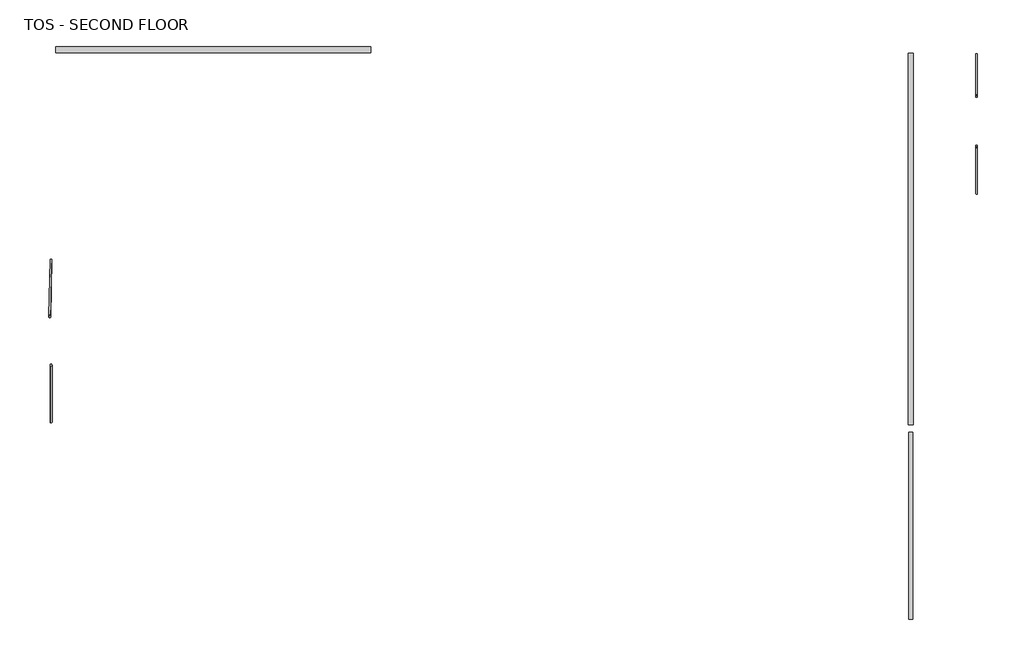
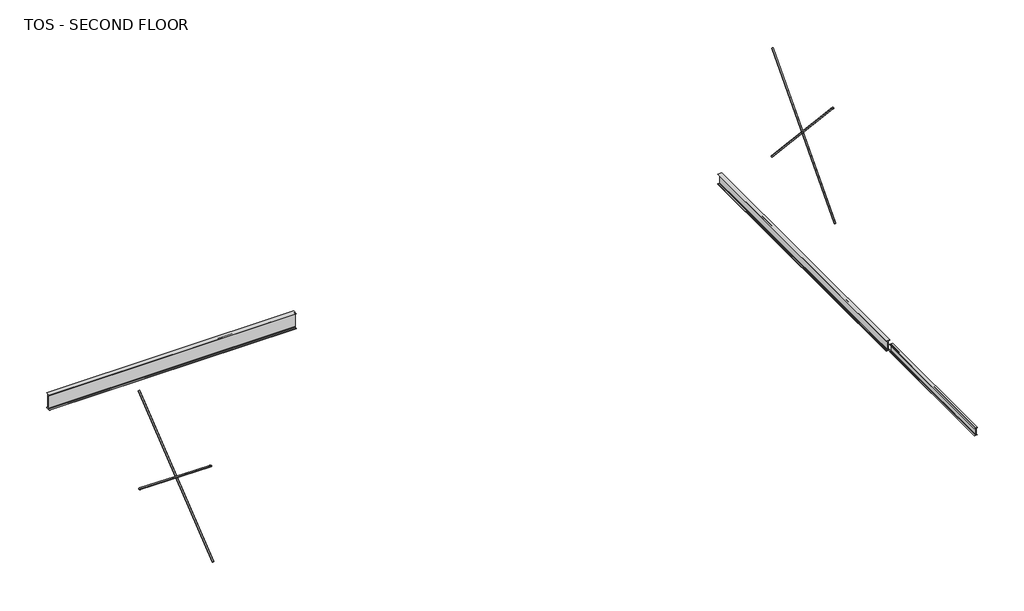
# One storey: 4 members, 3 beams.
"""IFC4 building model written with IfcOpenShell, lengths in millimetres."""

from ifc_helpers import new_model, si_unit, origin, place, context, project, spatial, transform, mapped, element, save
from components import w_wide_flange_w10x12_1bd4f99f, w_wide_flange_w14x22_9bef81b0, w_wide_flange_w21x44_ac43757c, hss_round_structural_tubing_hss1_900x0_188_a00ff317, hss_round_structural_tubing_hss1_900x0_188_38155dc2, hss_round_structural_tubing_hss1_900x0_188_139ededb, hss_round_structural_tubing_hss1_900x0_188_b26e8f7a

model = new_model("IFC4")

# Units and contexts
model_context = context("Model", 3, world=origin())
ifc_project = project(units=[si_unit("LENGTHUNIT", "METRE", prefix="MILLI")], contexts=[model_context])

# Site, building, storey
site = spatial("IfcSite", under=ifc_project)
building = spatial("IfcBuilding", under=site)
storey = spatial("IfcBuildingStorey", under=building, Name="TOS - SECOND FLOOR", Elevation=34378.9)

# Beams
placement = place(None, origin())
w_wide_flange_w10x12_shape = w_wide_flange_w10x12_1bd4f99f(model_context)
element("IfcBeam", 1, ObjectType="W-Wide Flange : W10X12", at=placement, inside=storey, context=model_context, shape_type="MappedRepresentation", body=[
    mapped(w_wide_flange_w10x12_shape, transform((11866.458706, -4439.2429995, 34253.551), x_axis=(0.0, -1.0, 0.0), y_axis=(1.0, 0.0, 0.0), z_axis=(0.0, 0.0, 1.0))),
])
w_wide_flange_w14x22_shape = w_wide_flange_w14x22_9bef81b0(model_context)
element("IfcBeam", 2, ObjectType="W-Wide Flange : W14X22", at=placement, inside=storey, context=model_context, shape_type="MappedRepresentation", body=[
    mapped(w_wide_flange_w14x22_shape, transform((11866.458706, 2953.7445005, 34204.91), x_axis=(0.0, -1.0, 0.0), y_axis=(1.0, 0.0, 0.0), z_axis=(0.0, 0.0, 1.0))),
])
w_wide_flange_w21x44_shape = w_wide_flange_w21x44_ac43757c(model_context)
element("IfcBeam", 3, ObjectType="W-Wide Flange : W21X44", at=placement, inside=storey, context=model_context, shape_type="MappedRepresentation", body=[
    mapped(w_wide_flange_w21x44_shape, transform((-6107.7454607, 7843.2445005, 34116.01), x_axis=(1.0, 0.0, 0.0), y_axis=(0.0, 1.0, 0.0), z_axis=(0.0, 0.0, 1.0))),
])

# Members
hss_round_structural_tubing_hss1_900x0_188_shape = hss_round_structural_tubing_hss1_900x0_188_a00ff317(model_context)
element("IfcMember", 4, ObjectType="HSS-Round Structural Tubing : HSS1.900X0.188", at=placement, inside=storey, context=model_context, shape_type="MappedRepresentation", body=[
    mapped(hss_round_structural_tubing_hss1_900x0_188_shape, transform((-10327.3204607, 323.2570005, 36086.161), x_axis=(0.0, 0.7802907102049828, 0.6254169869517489), y_axis=(-1.0000000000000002, 0.0, 0.0), z_axis=(0.0, -0.6254169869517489, 0.7802907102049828))),
])
hss_round_structural_tubing_hss1_900x0_188_2_shape = hss_round_structural_tubing_hss1_900x0_188_38155dc2(model_context)
element("IfcMember", 5, ObjectType="HSS-Round Structural Tubing : HSS1.900X0.188", at=placement, inside=storey, context=model_context, shape_type="MappedRepresentation", body=[
    mapped(hss_round_structural_tubing_hss1_900x0_188_2_shape, transform((-10375.5045038, 323.7709636, 36086.161), x_axis=(-0.016643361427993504, -0.7801131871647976, 0.6254169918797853), y_axis=(0.9997724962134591, -0.021329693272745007, 0.0), z_axis=(0.013339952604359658, 0.6252747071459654, 0.7802907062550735))),
])
hss_round_structural_tubing_hss1_900x0_188_3_shape = hss_round_structural_tubing_hss1_900x0_188_139ededb(model_context)
element("IfcMember", 6, ObjectType="HSS-Round Structural Tubing : HSS1.900X0.188", at=placement, inside=storey, context=model_context, shape_type="MappedRepresentation", body=[
    mapped(hss_round_structural_tubing_hss1_900x0_188_3_shape, transform((13567.7295393, 5974.7570005, 36273.105), x_axis=(0.0, 0.6703732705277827, 0.7420240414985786), y_axis=(-1.0000000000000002, 0.0, 0.0), z_axis=(0.0, -0.7420240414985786, 0.6703732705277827))),
])
hss_round_structural_tubing_hss1_900x0_188_4_shape = hss_round_structural_tubing_hss1_900x0_188_b26e8f7a(model_context)
element("IfcMember", 7, ObjectType="HSS-Round Structural Tubing : HSS1.900X0.188", at=placement, inside=storey, context=model_context, shape_type="MappedRepresentation", body=[
    mapped(hss_round_structural_tubing_hss1_900x0_188_4_shape, transform((13567.7295393, 5974.7570005, 36308.411), x_axis=(0.0, -0.6767091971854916, 0.736250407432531), y_axis=(1.0000000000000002, 0.0, 0.0), z_axis=(0.0, 0.736250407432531, 0.6767091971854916))),
])

save(model, "model.ifc")
